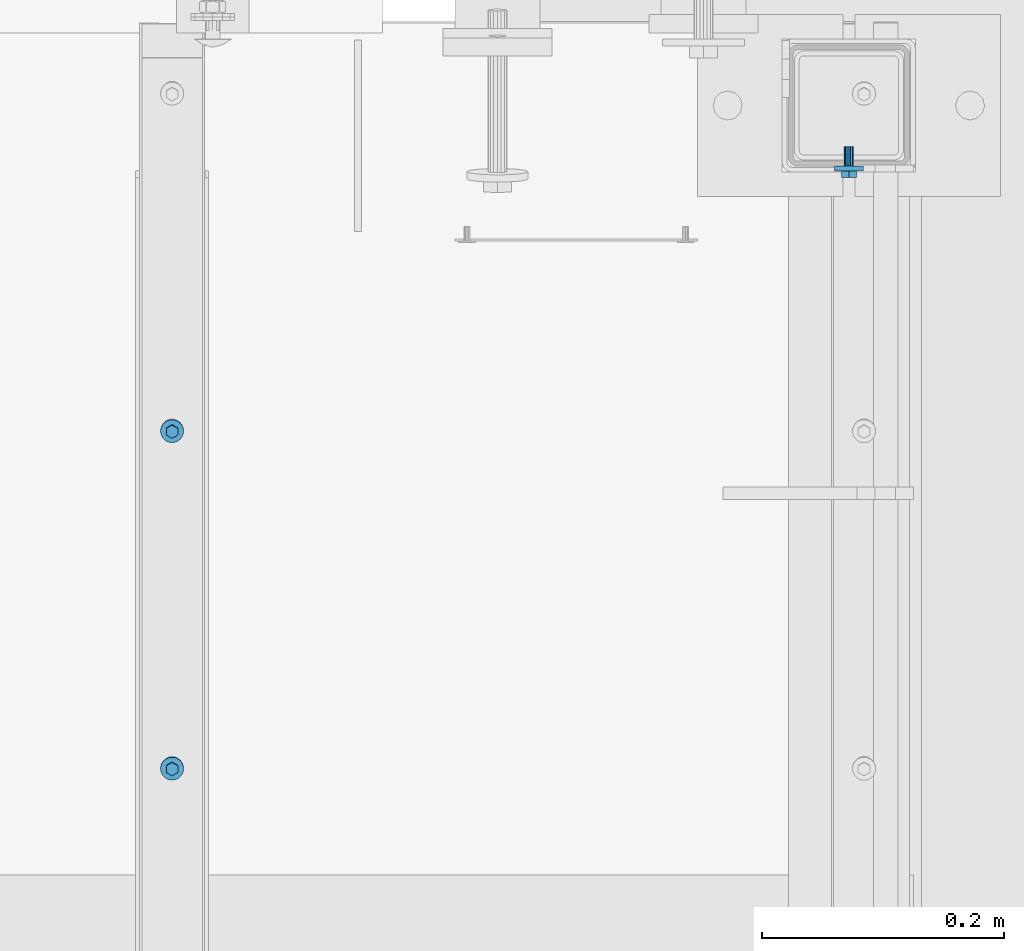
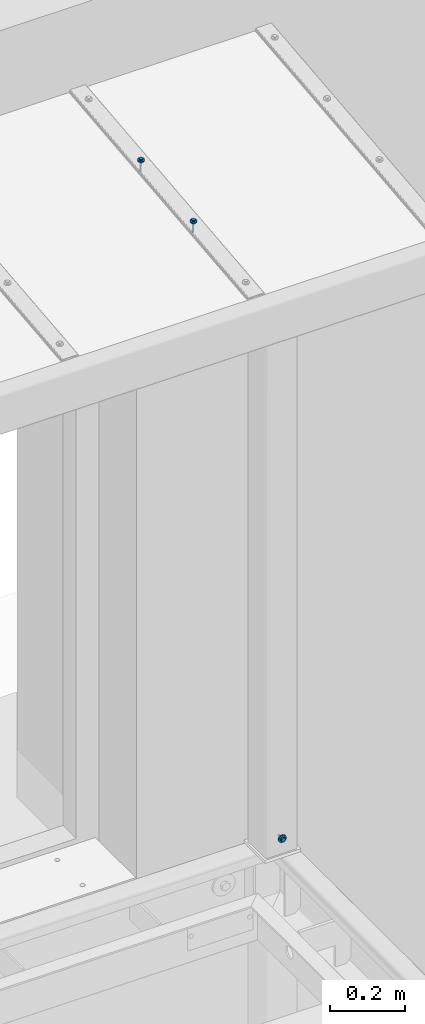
# One storey, part 62 of 116: 3 mechanical fasteners.
"""IFC2X3 building model written with IfcOpenShell, lengths in millimetres."""

from ifc_helpers import new_model, entity, si_unit, converted_unit, origin_with_axes, place, context, project, spatial, faceted_brep, element, save


model = new_model("IFC2X3")

# Units and contexts
model_context = context("Model", 3, precision=1e-09, world=origin_with_axes())
ifc_project = project(units=[si_unit("LENGTHUNIT", "METRE", prefix="MILLI"), si_unit("AREAUNIT", "SQUARE_METRE"), si_unit("VOLUMEUNIT", "CUBIC_METRE"), converted_unit("PLANEANGLEUNIT", "DEGREE", entity("IfcPlaneAngleMeasure", 0.01745329), si_unit("PLANEANGLEUNIT", "RADIAN"), dimensions=[0, 0, 0, 0, 0, 0, 0])], contexts=[model_context])

# Site, building, storey
site_placement = place(None, origin_with_axes())
site = spatial("IfcSite", under=ifc_project, at=site_placement, Name="Site", CompositionType="ELEMENT")
building_placement = place(site_placement, origin_with_axes())
building = spatial("IfcBuilding", under=site, at=building_placement, Name="Struktur 1", CompositionType="ELEMENT")
storey_placement = place(building_placement, origin_with_axes())
storey = spatial("IfcBuildingStorey", under=building, at=storey_placement, Name="Default Storey", CompositionType="ELEMENT", Elevation=0.0)

# Mechanical fasteners
mechanical_fastener_1_placement = place(None, origin_with_axes())
element("IfcMechanicalFastener", 1, at=mechanical_fastener_1_placement, inside=storey, ObjectType="-", NominalDiameter=8.0, NominalLength=20.0, context=model_context, shape_type="Brep", body=[
    faceted_brep([(58179.049134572, 11910.358883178, 55.0), (58179.049134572, 11912.358883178, 55.0), (58178.818557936, 11912.358883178, 57.341083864), (58178.818557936, 11910.358883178, 57.341083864), (58178.135688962, 11912.358883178, 59.592201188), (58178.135688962, 11910.358883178, 59.592201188), (58177.026769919, 11912.358883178, 61.666842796), (58177.026769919, 11910.358883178, 61.666842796), (58175.534415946, 11912.358883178, 63.485281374), (58175.534415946, 11910.358883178, 63.485281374), (58173.715977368, 11912.358883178, 64.977635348), (58173.715977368, 11910.358883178, 64.977635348), (58171.64133576, 11912.358883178, 66.08655439), (58171.64133576, 11910.358883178, 66.08655439), (58169.390218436, 11912.358883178, 66.769423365), (58169.390218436, 11910.358883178, 66.769423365), (58167.049134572, 11912.358883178, 67.0), (58167.049134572, 11910.358883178, 67.0), (58164.708050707, 11912.358883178, 66.769423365), (58164.708050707, 11910.358883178, 66.769423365), (58162.456933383, 11912.358883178, 66.08655439), (58162.456933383, 11910.358883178, 66.08655439), (58160.382291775, 11912.358883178, 64.977635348), (58160.382291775, 11910.358883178, 64.977635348), (58158.563853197, 11912.358883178, 63.485281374), (58158.563853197, 11910.358883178, 63.485281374), (58157.071499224, 11912.358883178, 61.666842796), (58157.071499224, 11910.358883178, 61.666842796), (58155.962580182, 11912.358883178, 59.592201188), (58155.962580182, 11910.358883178, 59.592201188), (58155.279711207, 11912.358883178, 57.341083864), (58155.279711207, 11910.358883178, 57.341083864), (58155.049134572, 11912.358883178, 55.0), (58155.049134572, 11910.358883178, 55.0), (58155.279711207, 11912.358883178, 52.658916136), (58155.279711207, 11910.358883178, 52.658916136), (58155.962580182, 11912.358883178, 50.407798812), (58155.962580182, 11910.358883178, 50.407798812), (58157.071499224, 11912.358883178, 48.333157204), (58157.071499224, 11910.358883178, 48.333157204), (58158.563853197, 11912.358883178, 46.514718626), (58158.563853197, 11910.358883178, 46.514718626), (58160.382291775, 11912.358883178, 45.022364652), (58160.382291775, 11910.358883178, 45.022364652), (58162.456933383, 11912.358883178, 43.91344561), (58162.456933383, 11910.358883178, 43.91344561), (58164.708050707, 11912.358883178, 43.230576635), (58164.708050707, 11910.358883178, 43.230576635), (58167.049134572, 11912.358883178, 43.0), (58167.049134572, 11910.358883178, 43.0), (58169.390218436, 11912.358883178, 43.230576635), (58169.390218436, 11910.358883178, 43.230576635), (58171.64133576, 11912.358883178, 43.91344561), (58171.64133576, 11910.358883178, 43.91344561), (58173.715977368, 11912.358883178, 45.022364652), (58173.715977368, 11910.358883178, 45.022364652), (58175.534415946, 11912.358883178, 46.514718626), (58175.534415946, 11910.358883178, 46.514718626), (58177.026769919, 11912.358883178, 48.333157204), (58177.026769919, 11910.358883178, 48.333157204), (58178.135688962, 11912.358883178, 50.407798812), (58178.135688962, 11910.358883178, 50.407798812), (58178.818557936, 11912.358883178, 52.658916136), (58178.818557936, 11910.358883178, 52.658916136)], [[[0, 1, 2, 3]], [[3, 2, 4, 5]], [[5, 4, 6, 7]], [[7, 6, 8, 9]], [[9, 8, 10, 11]], [[11, 10, 12, 13]], [[13, 12, 14, 15]], [[15, 14, 16, 17]], [[17, 16, 18, 19]], [[19, 18, 20, 21]], [[21, 20, 22, 23]], [[23, 22, 24, 25]], [[25, 24, 26, 27]], [[27, 26, 28, 29]], [[29, 28, 30, 31]], [[31, 30, 32, 33]], [[33, 32, 34, 35]], [[35, 34, 36, 37]], [[37, 36, 38, 39]], [[39, 38, 40, 41]], [[41, 40, 42, 43]], [[43, 42, 44, 45]], [[45, 44, 46, 47]], [[47, 46, 48, 49]], [[49, 48, 50, 51]], [[51, 50, 52, 53]], [[53, 52, 54, 55]], [[55, 54, 56, 57]], [[57, 56, 58, 59]], [[59, 58, 60, 61]], [[61, 60, 62, 63]], [[63, 62, 1, 0]], [[0, 3, 5, 7, 9, 11, 13, 15, 17, 19, 21, 23, 25, 27, 29, 31, 33, 35, 37, 39, 41, 43, 45, 47, 49, 51, 53, 55, 57, 59, 61, 63]], [[1, 62, 60, 58, 56, 54, 52, 50, 48, 46, 44, 42, 40, 38, 36, 34, 32, 30, 28, 26, 24, 22, 20, 18, 16, 14, 12, 10, 8, 6, 4, 2]]]),
    faceted_brep([(58179.049134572, 11908.358883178, 55.0), (58179.049134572, 11910.358883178, 55.0), (58178.818557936, 11910.358883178, 57.341083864), (58178.818557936, 11908.358883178, 57.341083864), (58178.135688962, 11910.358883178, 59.592201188), (58178.135688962, 11908.358883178, 59.592201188), (58177.026769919, 11910.358883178, 61.666842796), (58177.026769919, 11908.358883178, 61.666842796), (58175.534415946, 11910.358883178, 63.485281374), (58175.534415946, 11908.358883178, 63.485281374), (58173.715977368, 11910.358883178, 64.977635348), (58173.715977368, 11908.358883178, 64.977635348), (58171.64133576, 11910.358883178, 66.08655439), (58171.64133576, 11908.358883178, 66.08655439), (58169.390218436, 11910.358883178, 66.769423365), (58169.390218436, 11908.358883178, 66.769423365), (58167.049134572, 11910.358883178, 67.0), (58167.049134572, 11908.358883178, 67.0), (58164.708050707, 11910.358883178, 66.769423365), (58164.708050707, 11908.358883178, 66.769423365), (58162.456933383, 11910.358883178, 66.08655439), (58162.456933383, 11908.358883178, 66.08655439), (58160.382291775, 11910.358883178, 64.977635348), (58160.382291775, 11908.358883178, 64.977635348), (58158.563853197, 11910.358883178, 63.485281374), (58158.563853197, 11908.358883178, 63.485281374), (58157.071499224, 11910.358883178, 61.666842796), (58157.071499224, 11908.358883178, 61.666842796), (58155.962580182, 11910.358883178, 59.592201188), (58155.962580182, 11908.358883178, 59.592201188), (58155.279711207, 11910.358883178, 57.341083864), (58155.279711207, 11908.358883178, 57.341083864), (58155.049134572, 11910.358883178, 55.0), (58155.049134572, 11908.358883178, 55.0), (58155.279711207, 11910.358883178, 52.658916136), (58155.279711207, 11908.358883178, 52.658916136), (58155.962580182, 11910.358883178, 50.407798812), (58155.962580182, 11908.358883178, 50.407798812), (58157.071499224, 11910.358883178, 48.333157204), (58157.071499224, 11908.358883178, 48.333157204), (58158.563853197, 11910.358883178, 46.514718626), (58158.563853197, 11908.358883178, 46.514718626), (58160.382291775, 11910.358883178, 45.022364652), (58160.382291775, 11908.358883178, 45.022364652), (58162.456933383, 11910.358883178, 43.91344561), (58162.456933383, 11908.358883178, 43.91344561), (58164.708050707, 11910.358883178, 43.230576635), (58164.708050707, 11908.358883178, 43.230576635), (58167.049134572, 11910.358883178, 43.0), (58167.049134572, 11908.358883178, 43.0), (58169.390218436, 11910.358883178, 43.230576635), (58169.390218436, 11908.358883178, 43.230576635), (58171.64133576, 11910.358883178, 43.91344561), (58171.64133576, 11908.358883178, 43.91344561), (58173.715977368, 11910.358883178, 45.022364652), (58173.715977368, 11908.358883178, 45.022364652), (58175.534415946, 11910.358883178, 46.514718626), (58175.534415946, 11908.358883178, 46.514718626), (58177.026769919, 11910.358883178, 48.333157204), (58177.026769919, 11908.358883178, 48.333157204), (58178.135688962, 11910.358883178, 50.407798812), (58178.135688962, 11908.358883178, 50.407798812), (58178.818557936, 11910.358883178, 52.658916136), (58178.818557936, 11908.358883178, 52.658916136)], [[[0, 1, 2, 3]], [[3, 2, 4, 5]], [[5, 4, 6, 7]], [[7, 6, 8, 9]], [[9, 8, 10, 11]], [[11, 10, 12, 13]], [[13, 12, 14, 15]], [[15, 14, 16, 17]], [[17, 16, 18, 19]], [[19, 18, 20, 21]], [[21, 20, 22, 23]], [[23, 22, 24, 25]], [[25, 24, 26, 27]], [[27, 26, 28, 29]], [[29, 28, 30, 31]], [[31, 30, 32, 33]], [[33, 32, 34, 35]], [[35, 34, 36, 37]], [[37, 36, 38, 39]], [[39, 38, 40, 41]], [[41, 40, 42, 43]], [[43, 42, 44, 45]], [[45, 44, 46, 47]], [[47, 46, 48, 49]], [[49, 48, 50, 51]], [[51, 50, 52, 53]], [[53, 52, 54, 55]], [[55, 54, 56, 57]], [[57, 56, 58, 59]], [[59, 58, 60, 61]], [[61, 60, 62, 63]], [[63, 62, 1, 0]], [[0, 3, 5, 7, 9, 11, 13, 15, 17, 19, 21, 23, 25, 27, 29, 31, 33, 35, 37, 39, 41, 43, 45, 47, 49, 51, 53, 55, 57, 59, 61, 63]], [[1, 62, 60, 58, 56, 54, 52, 50, 48, 46, 44, 42, 40, 38, 36, 34, 32, 30, 28, 26, 24, 22, 20, 18, 16, 14, 12, 10, 8, 6, 4, 2]]]),
    faceted_brep([(58160.822411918, 11908.358883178, 58.595), (58160.822411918, 11903.058883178, 58.595), (58167.049134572, 11903.058883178, 62.19), (58167.049134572, 11908.358883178, 62.19), (58173.275857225, 11903.058883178, 58.595), (58173.275857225, 11908.358883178, 58.595), (58173.275857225, 11903.058883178, 51.405), (58173.275857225, 11908.358883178, 51.405), (58167.049134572, 11903.058883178, 47.81), (58167.049134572, 11908.358883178, 47.81), (58160.822411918, 11903.058883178, 51.405), (58160.822411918, 11908.358883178, 51.405)], [[[0, 1, 2, 3]], [[3, 2, 4, 5]], [[5, 4, 6, 7]], [[7, 6, 8, 9]], [[9, 8, 10, 11]], [[11, 10, 1, 0]], [[4, 2, 1, 10, 8, 6]], [[0, 3, 5, 7, 9, 11]]]),
    faceted_brep([(58171.049134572, 11912.358883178, 55.0), (58171.049134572, 11921.358883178, 55.0), (58170.744652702, 11921.358883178, 56.53073373), (58170.744652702, 11912.358883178, 56.53073373), (58169.877561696, 11921.358883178, 57.828427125), (58169.877561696, 11912.358883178, 57.828427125), (58168.579868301, 11921.358883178, 58.69551813), (58168.579868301, 11912.358883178, 58.69551813), (58167.049134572, 11921.358883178, 59.0), (58167.049134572, 11912.358883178, 59.0), (58165.518400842, 11921.358883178, 58.69551813), (58165.518400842, 11912.358883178, 58.69551813), (58164.220707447, 11921.358883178, 57.828427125), (58164.220707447, 11912.358883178, 57.828427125), (58163.353616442, 11921.358883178, 56.53073373), (58163.353616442, 11912.358883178, 56.53073373), (58163.049134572, 11921.358883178, 55.0), (58163.049134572, 11912.358883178, 55.0), (58163.353616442, 11921.358883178, 53.469266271), (58163.353616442, 11912.358883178, 53.469266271), (58164.220707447, 11921.358883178, 52.171572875), (58164.220707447, 11912.358883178, 52.171572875), (58165.518400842, 11921.358883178, 51.30448187), (58165.518400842, 11912.358883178, 51.30448187), (58167.049134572, 11921.358883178, 51.0), (58167.049134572, 11912.358883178, 51.0), (58168.579868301, 11921.358883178, 51.30448187), (58168.579868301, 11912.358883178, 51.30448187), (58169.877561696, 11921.358883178, 52.171572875), (58169.877561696, 11912.358883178, 52.171572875), (58170.744652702, 11921.358883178, 53.469266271), (58170.744652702, 11912.358883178, 53.469266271)], [[[0, 1, 2, 3]], [[3, 2, 4, 5]], [[5, 4, 6, 7]], [[7, 6, 8, 9]], [[9, 8, 10, 11]], [[11, 10, 12, 13]], [[13, 12, 14, 15]], [[15, 14, 16, 17]], [[17, 16, 18, 19]], [[19, 18, 20, 21]], [[21, 20, 22, 23]], [[23, 22, 24, 25]], [[25, 24, 26, 27]], [[27, 26, 28, 29]], [[29, 28, 30, 31]], [[31, 30, 1, 0]], [[0, 3, 5, 7, 9, 11, 13, 15, 17, 19, 21, 23, 25, 27, 29, 31]], [[1, 30, 28, 26, 24, 22, 20, 18, 16, 14, 12, 10, 8, 6, 4, 2]]]),
    faceted_brep([(58171.049134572, 11921.358883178, 55.0), (58171.049134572, 11928.358883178, 55.0), (58170.744652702, 11928.358883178, 56.53073373), (58170.744652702, 11921.358883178, 56.53073373), (58169.877561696, 11928.358883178, 57.828427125), (58169.877561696, 11921.358883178, 57.828427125), (58168.579868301, 11928.358883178, 58.69551813), (58168.579868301, 11921.358883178, 58.69551813), (58167.049134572, 11928.358883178, 59.0), (58167.049134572, 11921.358883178, 59.0), (58165.518400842, 11928.358883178, 58.69551813), (58165.518400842, 11921.358883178, 58.69551813), (58164.220707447, 11928.358883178, 57.828427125), (58164.220707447, 11921.358883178, 57.828427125), (58163.353616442, 11928.358883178, 56.53073373), (58163.353616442, 11921.358883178, 56.53073373), (58163.049134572, 11928.358883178, 55.0), (58163.049134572, 11921.358883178, 55.0), (58163.353616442, 11928.358883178, 53.469266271), (58163.353616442, 11921.358883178, 53.469266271), (58164.220707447, 11928.358883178, 52.171572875), (58164.220707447, 11921.358883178, 52.171572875), (58165.518400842, 11928.358883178, 51.30448187), (58165.518400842, 11921.358883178, 51.30448187), (58167.049134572, 11928.358883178, 51.0), (58167.049134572, 11921.358883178, 51.0), (58168.579868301, 11928.358883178, 51.30448187), (58168.579868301, 11921.358883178, 51.30448187), (58169.877561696, 11928.358883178, 52.171572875), (58169.877561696, 11921.358883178, 52.171572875), (58170.744652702, 11928.358883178, 53.469266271), (58170.744652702, 11921.358883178, 53.469266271)], [[[0, 1, 2, 3]], [[3, 2, 4, 5]], [[5, 4, 6, 7]], [[7, 6, 8, 9]], [[9, 8, 10, 11]], [[11, 10, 12, 13]], [[13, 12, 14, 15]], [[15, 14, 16, 17]], [[17, 16, 18, 19]], [[19, 18, 20, 21]], [[21, 20, 22, 23]], [[23, 22, 24, 25]], [[25, 24, 26, 27]], [[27, 26, 28, 29]], [[29, 28, 30, 31]], [[31, 30, 1, 0]], [[0, 3, 5, 7, 9, 11, 13, 15, 17, 19, 21, 23, 25, 27, 29, 31]], [[1, 30, 28, 26, 24, 22, 20, 18, 16, 14, 12, 10, 8, 6, 4, 2]]]),
])
mechanical_fastener_2_placement = place(None, origin_with_axes())
element("IfcMechanicalFastener", 2, at=mechanical_fastener_2_placement, inside=storey, ObjectType="-", NominalDiameter=6.0, NominalLength=40.0, context=model_context, shape_type="Brep", body=[
    faceted_brep([(57599.049134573, 11693.55204333, 2585.640381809), (57599.049134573, 11693.970157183, 2581.662294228), (57599.231674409, 11692.126952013, 2581.468565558), (57599.231674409, 11691.70883816, 2585.446653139), (57599.772279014, 11690.354580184, 2581.282281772), (57599.772279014, 11689.936466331, 2585.260369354), (57600.650173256, 11688.721152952, 2581.110601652), (57600.650173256, 11688.303039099, 2585.088689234), (57601.831620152, 11687.289442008, 2580.960122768), (57601.831620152, 11686.871328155, 2584.93821035), (57603.27121736, 11686.114467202, 2580.83662794), (57603.27121736, 11685.696353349, 2584.814715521), (57604.913641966, 11685.241382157, 2580.744863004), (57604.913641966, 11684.823268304, 2584.722950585), (57606.695776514, 11684.703739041, 2580.688354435), (57606.695776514, 11684.285625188, 2584.666442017), (57608.549134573, 11684.522199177, 2580.669273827), (57608.549134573, 11684.104085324, 2584.647361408), (57610.402492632, 11684.703739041, 2580.688354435), (57610.402492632, 11684.285625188, 2584.666442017), (57612.184627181, 11685.241382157, 2580.744863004), (57612.184627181, 11684.823268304, 2584.722950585), (57613.827051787, 11686.114467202, 2580.83662794), (57613.827051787, 11685.696353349, 2584.814715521), (57615.266648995, 11687.289442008, 2580.960122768), (57615.266648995, 11686.871328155, 2584.93821035), (57616.44809589, 11688.721152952, 2581.110601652), (57616.44809589, 11688.303039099, 2585.088689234), (57617.325990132, 11690.354580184, 2581.282281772), (57617.325990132, 11689.936466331, 2585.260369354), (57617.866594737, 11692.126952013, 2581.468565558), (57617.866594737, 11691.70883816, 2585.446653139), (57618.049134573, 11693.970157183, 2581.662294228), (57618.049134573, 11693.55204333, 2585.640381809), (57617.866594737, 11695.813362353, 2581.856022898), (57617.866594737, 11695.395248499, 2585.834110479), (57617.325990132, 11697.585734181, 2582.042306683), (57617.325990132, 11697.167620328, 2586.020394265), (57616.44809589, 11699.219161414, 2582.213986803), (57616.44809589, 11698.801047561, 2586.192074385), (57615.266648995, 11700.650872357, 2582.364465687), (57615.266648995, 11700.232758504, 2586.342553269), (57613.827051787, 11701.825847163, 2582.487960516), (57613.827051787, 11701.40773331, 2586.466048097), (57612.184627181, 11702.698932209, 2582.579725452), (57612.184627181, 11702.280818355, 2586.557813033), (57610.402492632, 11703.236575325, 2582.63623402), (57610.402492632, 11702.818461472, 2586.614321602), (57608.549134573, 11703.418115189, 2582.655314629), (57608.549134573, 11703.000001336, 2586.63340221), (57606.695776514, 11703.236575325, 2582.63623402), (57606.695776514, 11702.818461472, 2586.614321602), (57604.913641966, 11702.698932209, 2582.579725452), (57604.913641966, 11702.280818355, 2586.557813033), (57603.27121736, 11701.825847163, 2582.487960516), (57603.27121736, 11701.40773331, 2586.466048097), (57601.831620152, 11700.650872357, 2582.364465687), (57601.831620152, 11700.232758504, 2586.342553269), (57600.650173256, 11699.219161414, 2582.213986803), (57600.650173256, 11698.801047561, 2586.192074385), (57599.772279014, 11697.585734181, 2582.042306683), (57599.772279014, 11697.167620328, 2586.020394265), (57599.231674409, 11695.813362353, 2581.856022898), (57599.231674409, 11695.395248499, 2585.834110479)], [[[0, 1, 2, 3]], [[3, 2, 4, 5]], [[5, 4, 6, 7]], [[7, 6, 8, 9]], [[9, 8, 10, 11]], [[11, 10, 12, 13]], [[13, 12, 14, 15]], [[15, 14, 16, 17]], [[17, 16, 18, 19]], [[19, 18, 20, 21]], [[21, 20, 22, 23]], [[23, 22, 24, 25]], [[25, 24, 26, 27]], [[27, 26, 28, 29]], [[29, 28, 30, 31]], [[31, 30, 32, 33]], [[33, 32, 34, 35]], [[35, 34, 36, 37]], [[37, 36, 38, 39]], [[39, 38, 40, 41]], [[41, 40, 42, 43]], [[43, 42, 44, 45]], [[45, 44, 46, 47]], [[47, 46, 48, 49]], [[49, 48, 50, 51]], [[51, 50, 52, 53]], [[53, 52, 54, 55]], [[55, 54, 56, 57]], [[57, 56, 58, 59]], [[59, 58, 60, 61]], [[61, 60, 62, 63]], [[63, 62, 1, 0]], [[0, 3, 5, 7, 9, 11, 13, 15, 17, 19, 21, 23, 25, 27, 29, 31, 33, 35, 37, 39, 41, 43, 45, 47, 49, 51, 53, 55, 57, 59, 61, 63]], [[1, 62, 60, 58, 56, 54, 52, 50, 48, 46, 44, 42, 40, 38, 36, 34, 32, 30, 28, 26, 24, 22, 20, 18, 16, 14, 12, 10, 8, 6, 4, 2]]]),
    faceted_brep([(57613.333924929, 11690.804676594, 2585.351621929), (57613.333924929, 11690.386562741, 2589.329709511), (57608.549134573, 11687.639196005, 2589.040949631), (57608.549134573, 11688.057309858, 2585.06286205), (57603.764344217, 11690.386562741, 2589.329709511), (57603.764344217, 11690.804676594, 2585.351621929), (57603.764344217, 11695.881296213, 2589.90722927), (57603.764344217, 11696.299410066, 2585.929141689), (57608.549134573, 11698.628662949, 2590.19598915), (57608.549134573, 11699.046776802, 2586.217901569), (57613.333924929, 11695.881296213, 2589.90722927), (57613.333924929, 11696.299410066, 2585.929141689)], [[[0, 1, 2, 3]], [[3, 2, 4, 5]], [[5, 4, 6, 7]], [[7, 6, 8, 9]], [[9, 8, 10, 11]], [[11, 10, 1, 0]], [[4, 2, 1, 10, 8, 6]], [[0, 3, 5, 7, 9, 11]]]),
    faceted_brep([(57605.549134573, 11693.970157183, 2581.662294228), (57605.549134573, 11697.315068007, 2549.837593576), (57605.777495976, 11696.17330685, 2549.717589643), (57605.777495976, 11692.828396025, 2581.542290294), (57606.42781423, 11695.205368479, 2549.61585522), (57606.42781423, 11691.860457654, 2581.440555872), (57607.401084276, 11694.558612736, 2549.547878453), (57607.401084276, 11691.213701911, 2581.372579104), (57608.549134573, 11694.331502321, 2549.524008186), (57608.549134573, 11690.986591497, 2581.348708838), (57609.69718487, 11694.558612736, 2549.547878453), (57609.69718487, 11691.213701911, 2581.372579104), (57610.670454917, 11695.205368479, 2549.61585522), (57610.670454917, 11691.860457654, 2581.440555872), (57611.320773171, 11696.17330685, 2549.717589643), (57611.320773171, 11692.828396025, 2581.542290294), (57611.549134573, 11697.315068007, 2549.837593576), (57611.549134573, 11693.970157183, 2581.662294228), (57611.320773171, 11698.456829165, 2549.957597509), (57611.320773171, 11695.11191834, 2581.782298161), (57610.670454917, 11699.424767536, 2550.059331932), (57610.670454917, 11696.079856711, 2581.884032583), (57609.69718487, 11700.071523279, 2550.127308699), (57609.69718487, 11696.726612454, 2581.952009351), (57608.549134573, 11700.298633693, 2550.151178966), (57608.549134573, 11696.953722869, 2581.975879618), (57607.401084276, 11700.071523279, 2550.127308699), (57607.401084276, 11696.726612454, 2581.952009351), (57606.42781423, 11699.424767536, 2550.059331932), (57606.42781423, 11696.079856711, 2581.884032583), (57605.777495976, 11698.456829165, 2549.957597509), (57605.777495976, 11695.11191834, 2581.782298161)], [[[0, 1, 2, 3]], [[3, 2, 4, 5]], [[5, 4, 6, 7]], [[7, 6, 8, 9]], [[9, 8, 10, 11]], [[11, 10, 12, 13]], [[13, 12, 14, 15]], [[15, 14, 16, 17]], [[17, 16, 18, 19]], [[19, 18, 20, 21]], [[21, 20, 22, 23]], [[23, 22, 24, 25]], [[25, 24, 26, 27]], [[27, 26, 28, 29]], [[29, 28, 30, 31]], [[31, 30, 1, 0]], [[0, 3, 5, 7, 9, 11, 13, 15, 17, 19, 21, 23, 25, 27, 29, 31]], [[1, 30, 28, 26, 24, 22, 20, 18, 16, 14, 12, 10, 8, 6, 4, 2]]]),
    faceted_brep([(57605.549134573, 11697.315068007, 2549.837593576), (57605.549134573, 11697.73318186, 2545.859505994), (57605.777495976, 11696.591420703, 2545.739502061), (57605.777495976, 11696.17330685, 2549.717589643), (57606.42781423, 11695.623482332, 2545.637767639), (57606.42781423, 11695.205368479, 2549.61585522), (57607.401084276, 11694.976726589, 2545.569790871), (57607.401084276, 11694.558612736, 2549.547878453), (57608.549134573, 11694.749616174, 2545.545920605), (57608.549134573, 11694.331502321, 2549.524008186), (57609.69718487, 11694.976726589, 2545.569790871), (57609.69718487, 11694.558612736, 2549.547878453), (57610.670454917, 11695.623482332, 2545.637767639), (57610.670454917, 11695.205368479, 2549.61585522), (57611.320773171, 11696.591420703, 2545.739502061), (57611.320773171, 11696.17330685, 2549.717589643), (57611.549134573, 11697.73318186, 2545.859505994), (57611.549134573, 11697.315068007, 2549.837593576), (57611.320773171, 11698.874943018, 2545.979509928), (57611.320773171, 11698.456829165, 2549.957597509), (57610.670454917, 11699.842881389, 2546.08124435), (57610.670454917, 11699.424767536, 2550.059331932), (57609.69718487, 11700.489637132, 2546.149221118), (57609.69718487, 11700.071523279, 2550.127308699), (57608.549134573, 11700.716747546, 2546.173091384), (57608.549134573, 11700.298633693, 2550.151178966), (57607.401084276, 11700.489637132, 2546.149221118), (57607.401084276, 11700.071523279, 2550.127308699), (57606.42781423, 11699.842881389, 2546.08124435), (57606.42781423, 11699.424767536, 2550.059331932), (57605.777495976, 11698.874943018, 2545.979509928), (57605.777495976, 11698.456829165, 2549.957597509)], [[[0, 1, 2, 3]], [[3, 2, 4, 5]], [[5, 4, 6, 7]], [[7, 6, 8, 9]], [[9, 8, 10, 11]], [[11, 10, 12, 13]], [[13, 12, 14, 15]], [[15, 14, 16, 17]], [[17, 16, 18, 19]], [[19, 18, 20, 21]], [[21, 20, 22, 23]], [[23, 22, 24, 25]], [[25, 24, 26, 27]], [[27, 26, 28, 29]], [[29, 28, 30, 31]], [[31, 30, 1, 0]], [[0, 3, 5, 7, 9, 11, 13, 15, 17, 19, 21, 23, 25, 27, 29, 31]], [[1, 30, 28, 26, 24, 22, 20, 18, 16, 14, 12, 10, 8, 6, 4, 2]]]),
])
mechanical_fastener_3_placement = place(None, origin_with_axes())
element("IfcMechanicalFastener", 3, at=mechanical_fastener_3_placement, inside=storey, ObjectType="-", NominalDiameter=6.0, NominalLength=40.0, context=model_context, shape_type="Brep", body=[
    faceted_brep([(57599.049134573, 11415.085912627, 2556.372412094), (57599.049134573, 11415.50402648, 2552.394324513), (57599.231674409, 11413.66082131, 2552.200595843), (57599.231674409, 11413.242707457, 2556.178683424), (57599.772279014, 11411.888449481, 2552.014312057), (57599.772279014, 11411.470335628, 2555.992399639), (57600.650173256, 11410.255022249, 2551.842631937), (57600.650173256, 11409.836908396, 2555.820719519), (57601.831620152, 11408.823311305, 2551.692153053), (57601.831620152, 11408.405197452, 2555.670240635), (57603.27121736, 11407.648336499, 2551.568658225), (57603.27121736, 11407.230222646, 2555.546745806), (57604.913641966, 11406.775251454, 2551.476893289), (57604.913641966, 11406.357137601, 2555.45498087), (57606.695776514, 11406.237608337, 2551.42038472), (57606.695776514, 11405.819494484, 2555.398472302), (57608.549134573, 11406.056068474, 2551.401304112), (57608.549134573, 11405.637954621, 2555.379391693), (57610.402492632, 11406.237608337, 2551.42038472), (57610.402492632, 11405.819494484, 2555.398472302), (57612.184627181, 11406.775251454, 2551.476893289), (57612.184627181, 11406.357137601, 2555.45498087), (57613.827051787, 11407.648336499, 2551.568658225), (57613.827051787, 11407.230222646, 2555.546745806), (57615.266648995, 11408.823311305, 2551.692153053), (57615.266648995, 11408.405197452, 2555.670240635), (57616.44809589, 11410.255022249, 2551.842631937), (57616.44809589, 11409.836908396, 2555.820719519), (57617.325990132, 11411.888449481, 2552.014312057), (57617.325990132, 11411.470335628, 2555.992399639), (57617.866594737, 11413.66082131, 2552.200595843), (57617.866594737, 11413.242707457, 2556.178683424), (57618.049134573, 11415.50402648, 2552.394324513), (57618.049134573, 11415.085912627, 2556.372412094), (57617.866594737, 11417.347231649, 2552.588053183), (57617.866594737, 11416.929117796, 2556.566140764), (57617.325990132, 11419.119603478, 2552.774336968), (57617.325990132, 11418.701489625, 2556.75242455), (57616.44809589, 11420.753030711, 2552.946017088), (57616.44809589, 11420.334916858, 2556.92410467), (57615.266648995, 11422.184741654, 2553.096495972), (57615.266648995, 11421.766627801, 2557.074583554), (57613.827051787, 11423.35971646, 2553.219990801), (57613.827051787, 11422.941602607, 2557.198078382), (57612.184627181, 11424.232801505, 2553.311755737), (57612.184627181, 11423.814687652, 2557.289843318), (57610.402492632, 11424.770444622, 2553.368264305), (57610.402492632, 11424.352330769, 2557.346351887), (57608.549134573, 11424.951984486, 2553.387344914), (57608.549134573, 11424.533870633, 2557.365432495), (57606.695776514, 11424.770444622, 2553.368264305), (57606.695776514, 11424.352330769, 2557.346351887), (57604.913641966, 11424.232801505, 2553.311755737), (57604.913641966, 11423.814687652, 2557.289843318), (57603.27121736, 11423.35971646, 2553.219990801), (57603.27121736, 11422.941602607, 2557.198078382), (57601.831620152, 11422.184741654, 2553.096495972), (57601.831620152, 11421.766627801, 2557.074583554), (57600.650173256, 11420.753030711, 2552.946017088), (57600.650173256, 11420.334916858, 2556.92410467), (57599.772279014, 11419.119603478, 2552.774336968), (57599.772279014, 11418.701489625, 2556.75242455), (57599.231674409, 11417.347231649, 2552.588053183), (57599.231674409, 11416.929117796, 2556.566140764)], [[[0, 1, 2, 3]], [[3, 2, 4, 5]], [[5, 4, 6, 7]], [[7, 6, 8, 9]], [[9, 8, 10, 11]], [[11, 10, 12, 13]], [[13, 12, 14, 15]], [[15, 14, 16, 17]], [[17, 16, 18, 19]], [[19, 18, 20, 21]], [[21, 20, 22, 23]], [[23, 22, 24, 25]], [[25, 24, 26, 27]], [[27, 26, 28, 29]], [[29, 28, 30, 31]], [[31, 30, 32, 33]], [[33, 32, 34, 35]], [[35, 34, 36, 37]], [[37, 36, 38, 39]], [[39, 38, 40, 41]], [[41, 40, 42, 43]], [[43, 42, 44, 45]], [[45, 44, 46, 47]], [[47, 46, 48, 49]], [[49, 48, 50, 51]], [[51, 50, 52, 53]], [[53, 52, 54, 55]], [[55, 54, 56, 57]], [[57, 56, 58, 59]], [[59, 58, 60, 61]], [[61, 60, 62, 63]], [[63, 62, 1, 0]], [[0, 3, 5, 7, 9, 11, 13, 15, 17, 19, 21, 23, 25, 27, 29, 31, 33, 35, 37, 39, 41, 43, 45, 47, 49, 51, 53, 55, 57, 59, 61, 63]], [[1, 62, 60, 58, 56, 54, 52, 50, 48, 46, 44, 42, 40, 38, 36, 34, 32, 30, 28, 26, 24, 22, 20, 18, 16, 14, 12, 10, 8, 6, 4, 2]]]),
    faceted_brep([(57613.333924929, 11412.338545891, 2556.083652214), (57613.333924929, 11411.920432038, 2560.061739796), (57608.549134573, 11409.173065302, 2559.772979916), (57608.549134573, 11409.591179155, 2555.794892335), (57603.764344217, 11411.920432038, 2560.061739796), (57603.764344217, 11412.338545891, 2556.083652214), (57603.764344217, 11417.415165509, 2560.639259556), (57603.764344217, 11417.833279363, 2556.661171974), (57608.549134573, 11420.162532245, 2560.928019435), (57608.549134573, 11420.580646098, 2556.949931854), (57613.333924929, 11417.415165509, 2560.639259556), (57613.333924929, 11417.833279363, 2556.661171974)], [[[0, 1, 2, 3]], [[3, 2, 4, 5]], [[5, 4, 6, 7]], [[7, 6, 8, 9]], [[9, 8, 10, 11]], [[11, 10, 1, 0]], [[4, 2, 1, 10, 8, 6]], [[0, 3, 5, 7, 9, 11]]]),
    faceted_brep([(57605.549134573, 11415.50402648, 2552.394324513), (57605.549134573, 11418.848937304, 2520.569623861), (57605.777495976, 11417.707176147, 2520.449619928), (57605.777495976, 11414.362265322, 2552.274320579), (57606.42781423, 11416.739237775, 2520.347885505), (57606.42781423, 11413.394326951, 2552.172586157), (57607.401084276, 11416.092482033, 2520.279908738), (57607.401084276, 11412.747571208, 2552.104609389), (57608.549134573, 11415.865371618, 2520.256038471), (57608.549134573, 11412.520460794, 2552.080739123), (57609.69718487, 11416.092482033, 2520.279908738), (57609.69718487, 11412.747571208, 2552.104609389), (57610.670454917, 11416.739237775, 2520.347885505), (57610.670454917, 11413.394326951, 2552.172586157), (57611.320773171, 11417.707176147, 2520.449619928), (57611.320773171, 11414.362265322, 2552.274320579), (57611.549134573, 11418.848937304, 2520.569623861), (57611.549134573, 11415.50402648, 2552.394324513), (57611.320773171, 11419.990698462, 2520.689627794), (57611.320773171, 11416.645787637, 2552.514328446), (57610.670454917, 11420.958636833, 2520.791362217), (57610.670454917, 11417.613726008, 2552.616062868), (57609.69718487, 11421.605392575, 2520.859338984), (57609.69718487, 11418.260481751, 2552.684039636), (57608.549134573, 11421.83250299, 2520.883209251), (57608.549134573, 11418.487592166, 2552.707909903), (57607.401084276, 11421.605392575, 2520.859338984), (57607.401084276, 11418.260481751, 2552.684039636), (57606.42781423, 11420.958636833, 2520.791362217), (57606.42781423, 11417.613726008, 2552.616062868), (57605.777495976, 11419.990698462, 2520.689627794), (57605.777495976, 11416.645787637, 2552.514328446)], [[[0, 1, 2, 3]], [[3, 2, 4, 5]], [[5, 4, 6, 7]], [[7, 6, 8, 9]], [[9, 8, 10, 11]], [[11, 10, 12, 13]], [[13, 12, 14, 15]], [[15, 14, 16, 17]], [[17, 16, 18, 19]], [[19, 18, 20, 21]], [[21, 20, 22, 23]], [[23, 22, 24, 25]], [[25, 24, 26, 27]], [[27, 26, 28, 29]], [[29, 28, 30, 31]], [[31, 30, 1, 0]], [[0, 3, 5, 7, 9, 11, 13, 15, 17, 19, 21, 23, 25, 27, 29, 31]], [[1, 30, 28, 26, 24, 22, 20, 18, 16, 14, 12, 10, 8, 6, 4, 2]]]),
    faceted_brep([(57605.549134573, 11418.848937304, 2520.569623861), (57605.549134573, 11419.267051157, 2516.59153628), (57605.777495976, 11418.12529, 2516.471532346), (57605.777495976, 11417.707176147, 2520.449619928), (57606.42781423, 11417.157351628, 2516.369797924), (57606.42781423, 11416.739237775, 2520.347885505), (57607.401084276, 11416.510595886, 2516.301821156), (57607.401084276, 11416.092482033, 2520.279908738), (57608.549134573, 11416.283485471, 2516.27795089), (57608.549134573, 11415.865371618, 2520.256038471), (57609.69718487, 11416.510595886, 2516.301821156), (57609.69718487, 11416.092482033, 2520.279908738), (57610.670454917, 11417.157351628, 2516.369797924), (57610.670454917, 11416.739237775, 2520.347885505), (57611.320773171, 11418.12529, 2516.471532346), (57611.320773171, 11417.707176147, 2520.449619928), (57611.549134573, 11419.267051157, 2516.59153628), (57611.549134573, 11418.848937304, 2520.569623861), (57611.320773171, 11420.408812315, 2516.711540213), (57611.320773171, 11419.990698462, 2520.689627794), (57610.670454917, 11421.376750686, 2516.813274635), (57610.670454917, 11420.958636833, 2520.791362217), (57609.69718487, 11422.023506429, 2516.881251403), (57609.69718487, 11421.605392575, 2520.859338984), (57608.549134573, 11422.250616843, 2516.905121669), (57608.549134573, 11421.83250299, 2520.883209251), (57607.401084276, 11422.023506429, 2516.881251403), (57607.401084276, 11421.605392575, 2520.859338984), (57606.42781423, 11421.376750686, 2516.813274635), (57606.42781423, 11420.958636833, 2520.791362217), (57605.777495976, 11420.408812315, 2516.711540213), (57605.777495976, 11419.990698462, 2520.689627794)], [[[0, 1, 2, 3]], [[3, 2, 4, 5]], [[5, 4, 6, 7]], [[7, 6, 8, 9]], [[9, 8, 10, 11]], [[11, 10, 12, 13]], [[13, 12, 14, 15]], [[15, 14, 16, 17]], [[17, 16, 18, 19]], [[19, 18, 20, 21]], [[21, 20, 22, 23]], [[23, 22, 24, 25]], [[25, 24, 26, 27]], [[27, 26, 28, 29]], [[29, 28, 30, 31]], [[31, 30, 1, 0]], [[0, 3, 5, 7, 9, 11, 13, 15, 17, 19, 21, 23, 25, 27, 29, 31]], [[1, 30, 28, 26, 24, 22, 20, 18, 16, 14, 12, 10, 8, 6, 4, 2]]]),
])

save(model, "model.ifc")
